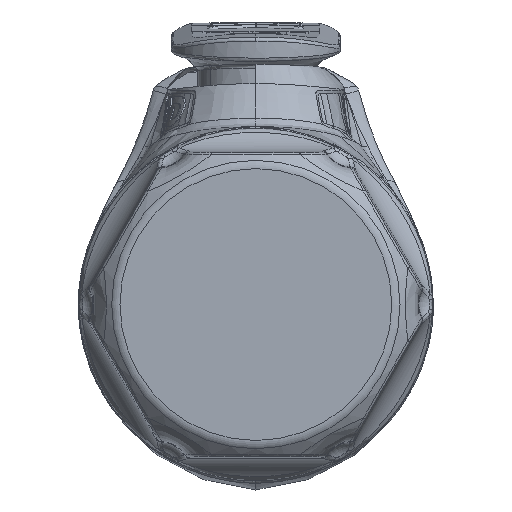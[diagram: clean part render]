
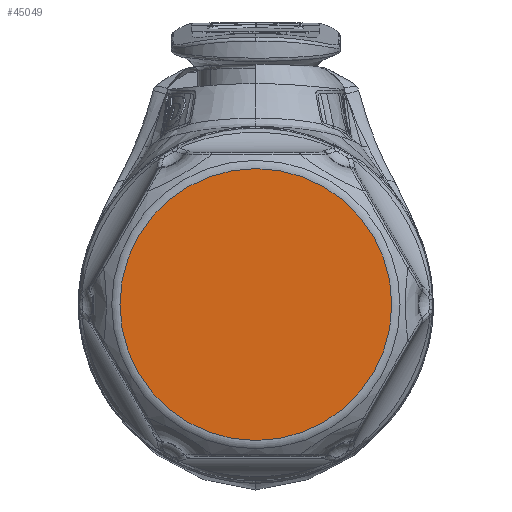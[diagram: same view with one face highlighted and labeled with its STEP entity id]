
A CAD part, front view. The second image highlights one B-rep face of the part: STEP entity #45049.
In plain terms, the highlighted planar face has unit normal (0, -1, 0).
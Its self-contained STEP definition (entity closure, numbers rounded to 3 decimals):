
#4872 = PLANE ( 'NONE',  #15934 ) ;
#13598 = DIRECTION ( 'NONE',  ( 0., -1., 0. ) ) ;
#15934 = AXIS2_PLACEMENT_3D ( 'NONE', #19066, #83194, #32805 ) ;
#19066 = CARTESIAN_POINT ( 'NONE',  ( 0., -58.7, 0. ) ) ;
#32805 = DIRECTION ( 'NONE',  ( 0., 0., -1. ) ) ;
#32843 = ORIENTED_EDGE ( 'NONE', *, *, #84023, .T. ) ;
#45049 = ADVANCED_FACE ( 'NONE', ( #53891 ), #4872, .T. ) ;
#48129 = CIRCLE ( 'NONE', #81717, 11.016 ) ;
#53891 = FACE_OUTER_BOUND ( 'NONE', #60127, .T. ) ;
#60127 = EDGE_LOOP ( 'NONE', ( #32843 ) ) ;
#60343 = DIRECTION ( 'NONE',  ( 1., 0., 0. ) ) ;
#67490 = VERTEX_POINT ( 'NONE', #75255 ) ;
#75255 = CARTESIAN_POINT ( 'NONE',  ( 11.016, -58.7, 0. ) ) ;
#81717 = AXIS2_PLACEMENT_3D ( 'NONE', #89658, #13598, #60343 ) ;
#83194 = DIRECTION ( 'NONE',  ( 0., -1., 0. ) ) ;
#84023 = EDGE_CURVE ( 'NONE', #67490, #67490, #48129, .T. ) ;
#89658 = CARTESIAN_POINT ( 'NONE',  ( 0., -58.7, 0. ) ) ;
